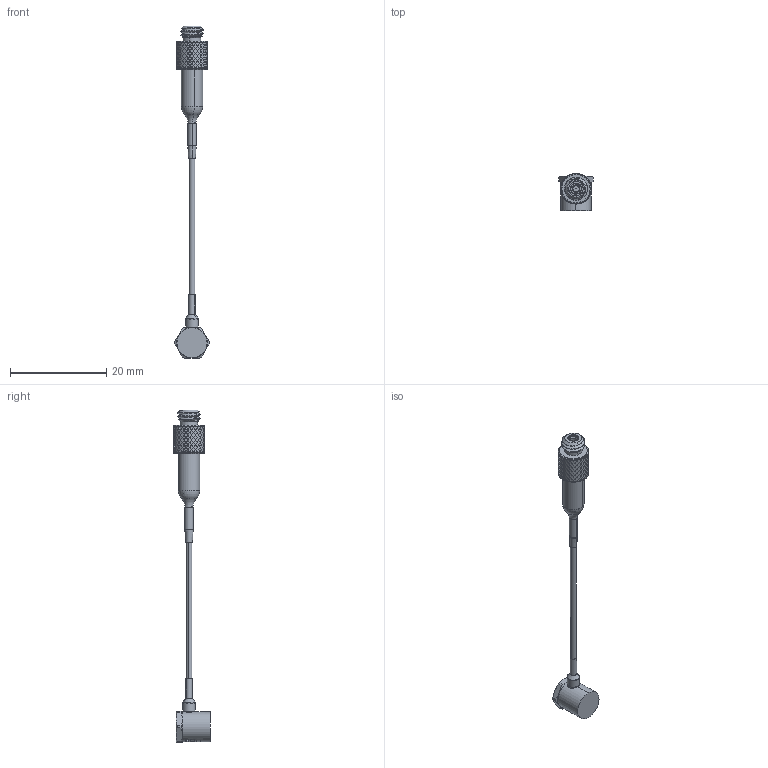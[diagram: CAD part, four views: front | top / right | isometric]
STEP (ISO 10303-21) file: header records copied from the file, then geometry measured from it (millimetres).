
FILE_DESCRIPTION (( 'STEP AP214' ), '1' );
FILE_NAME ('CAD_3032A.STEP', '2017-04-06T17:35:41', ( 'Dytran' ), ( '' ), 'SwSTEP 2.0', 'SolidWorks 2016', '' );
FILE_SCHEMA (( 'AUTOMOTIVE_DESIGN' ));
Length unit declared in the file: inch
Products named in the file (1): CAD_3032A
Bounding box: 7.11 x 7.59 x 68.99 mm (x, y, z)
Volume: 619.3 mm3; surface area: 1283.4 mm2
Topology: 3 solids, 4 shells, 1962 faces, 4327 edges, 2408 vertices
Faces by surface type: bspline 1382, cylinder 421, plane 114, cone 33, torus 12
Entity records: 107477 total; most frequent: CARTESIAN_POINT 54700, ORIENTED_EDGE 8654, EDGE_CURVE 4327, VERTEX_POINT 2408, DIRECTION 2148, EDGE_LOOP 2001, ADVANCED_FACE 1962, FACE_OUTER_BOUND 1962
